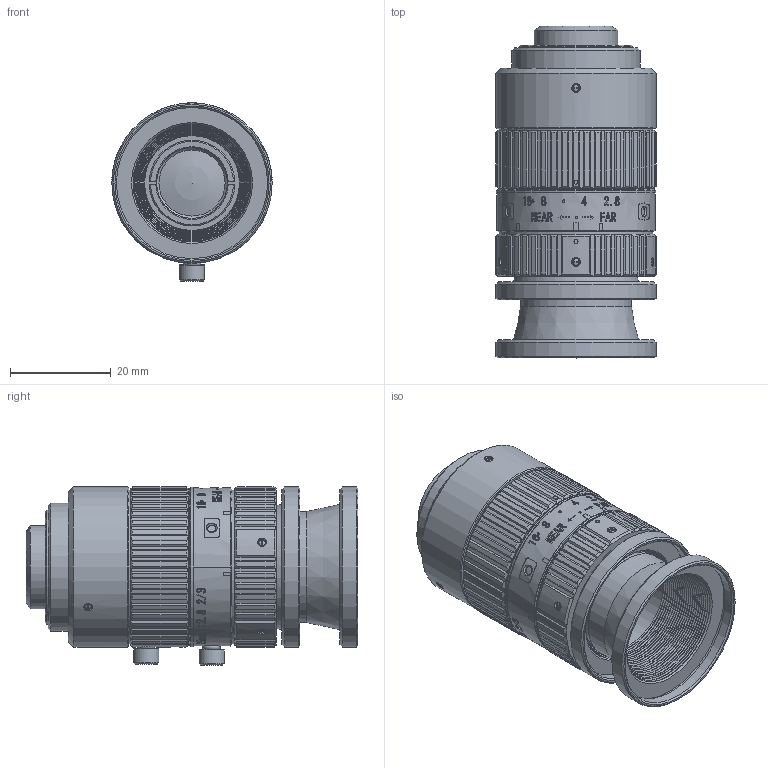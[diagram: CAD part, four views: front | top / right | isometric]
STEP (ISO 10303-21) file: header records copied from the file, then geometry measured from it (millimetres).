
FILE_DESCRIPTION(/* description */ ('Unknown'),/* implementation_level */ '2;1');
FILE_NAME(/* name */ 'M2528-MPX_Outline',/* time_stamp */ '2023-12-20T11:16:41+09:00',/* author */ ('Unknown'),/* organization */ ('Unknown'),/* preprocessor_version */ 'ST-DEVELOPER v18.102',/* originating_system */ 'Solid Edge',/* authorisation */ 'Unknown');
FILE_SCHEMA (('AUTOMOTIVE_DESIGN {1 0 10303 214 3 1 1}'));
Products named in the file (6): M2528-MPX_Outline; M2528MPX_FixedLens; M2528MPX_Barrel-Unit; M2528MPX_Moving Barrel; Fix screw; M2528MPX_Name-Seal
Assembly tree (7 placements, depth 2):
  M2528-MPX_Outline
    M2528MPX_FixedLens
    M2528MPX_Barrel-Unit
    M2528MPX_Moving Barrel  x2
    Fix screw  x2
    M2528MPX_Name-Seal
Bounding box: 31.8 x 65.8 x 35.35 mm (x, y, z)
Volume: 31117.9 mm3; surface area: 21527.5 mm2
Topology: 9 solids, 9 shells, 1235 faces, 3180 edges, 2083 vertices
Faces by surface type: plane 652, cylinder 233, bspline 172, cone 157, sphere 19, torus 2
Full cylindrical faces by diameter (mm): 0.8 x2, 1.321 x8, 1.5 x2, 1.567 x3, 2 x3, 2.4 x1, 2.8 x1, 3 x1, 4.5 x1, 4.999 x2, 12.3 x1, 12.8 x1, 13.1 x2, 14 x2, 16.5 x1, 18.8 x2, 19.2 x2, 19.459 x1, 20 x1, 20.1 x1, 20.5 x2, 20.8 x4, 21 x1, 21.5 x2, 22 x2, 22.6 x1, 22.65 x1, 25.4 x1, 25.5 x1, 29.959 x2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
Entity records: 52012 total; most frequent: CARTESIAN_POINT 18416, ORIENTED_EDGE 5572, DIRECTION 4506, EDGE_CURVE 2786, VERTEX_POINT 1924, AXIS2_PLACEMENT_3D 1698, FACE_BOUND 1410, EDGE_LOOP 1409
